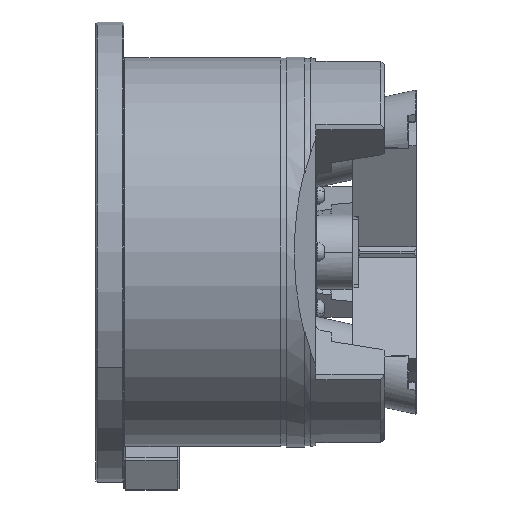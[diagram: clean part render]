
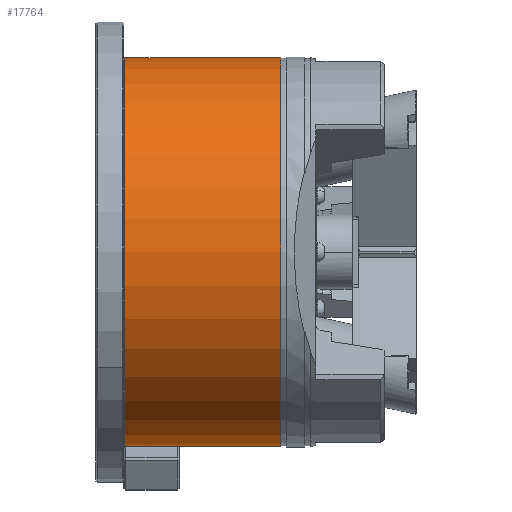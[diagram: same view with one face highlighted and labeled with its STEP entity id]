
A CAD part, front view. The second image highlights one B-rep face of the part: STEP entity #17764.
In plain terms, the highlighted cylindrical face has radius 104.75 mm (diameter 209.5 mm), a partial arc.
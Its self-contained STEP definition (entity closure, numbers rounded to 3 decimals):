
#104 = CARTESIAN_POINT ( 'NONE',  ( -102.4, 0., -104.75 ) ) ;
#1321 = DIRECTION ( 'NONE',  ( 1., 0., 0. ) ) ;
#4648 = VERTEX_POINT ( 'NONE', #18768 ) ;
#6115 = VERTEX_POINT ( 'NONE', #12835 ) ;
#6517 = AXIS2_PLACEMENT_3D ( 'NONE', #45815, #22331, #49743 ) ;
#6686 = DIRECTION ( 'NONE',  ( 1., 0., 0. ) ) ;
#8223 = AXIS2_PLACEMENT_3D ( 'NONE', #39813, #28300, #12507 ) ;
#9586 = CIRCLE ( 'NONE', #17956, 104.75 ) ;
#11032 = CARTESIAN_POINT ( 'NONE',  ( -18.5, 0., 104.75 ) ) ;
#11283 = VERTEX_POINT ( 'NONE', #11032 ) ;
#12129 = EDGE_CURVE ( 'NONE', #11283, #6115, #9586, .T. ) ;
#12260 = ORIENTED_EDGE ( 'NONE', *, *, #12129, .F. ) ;
#12297 = VERTEX_POINT ( 'NONE', #104 ) ;
#12507 = DIRECTION ( 'NONE',  ( 0., 0., -1. ) ) ;
#12835 = CARTESIAN_POINT ( 'NONE',  ( -18.5, 0., -104.75 ) ) ;
#13243 = ORIENTED_EDGE ( 'NONE', *, *, #42760, .F. ) ;
#15524 = LINE ( 'NONE', #40061, #36424 ) ;
#17764 = ADVANCED_FACE ( 'NONE', ( #31395 ), #39365, .T. ) ;
#17956 = AXIS2_PLACEMENT_3D ( 'NONE', #30188, #6686, #34157 ) ;
#18768 = CARTESIAN_POINT ( 'NONE',  ( -102.4, 0., 104.75 ) ) ;
#21283 = EDGE_LOOP ( 'NONE', ( #13243, #38191, #27010, #12260 ) ) ;
#22331 = DIRECTION ( 'NONE',  ( 1., 0., 0. ) ) ;
#24846 = CARTESIAN_POINT ( 'NONE',  ( 63.843, 0., -104.75 ) ) ;
#27010 = ORIENTED_EDGE ( 'NONE', *, *, #30039, .T. ) ;
#28300 = DIRECTION ( 'NONE',  ( 1., 0., 0. ) ) ;
#28694 = VECTOR ( 'NONE', #1321, 1000. ) ;
#30039 = EDGE_CURVE ( 'NONE', #12297, #6115, #49569, .T. ) ;
#30188 = CARTESIAN_POINT ( 'NONE',  ( -18.5, 0., 0. ) ) ;
#31395 = FACE_OUTER_BOUND ( 'NONE', #21283, .T. ) ;
#33975 = EDGE_CURVE ( 'NONE', #4648, #12297, #49967, .T. ) ;
#34157 = DIRECTION ( 'NONE',  ( 0., 0., -1. ) ) ;
#36424 = VECTOR ( 'NONE', #43994, 1000. ) ;
#38191 = ORIENTED_EDGE ( 'NONE', *, *, #33975, .T. ) ;
#39365 = CYLINDRICAL_SURFACE ( 'NONE', #8223, 104.75 ) ;
#39813 = CARTESIAN_POINT ( 'NONE',  ( 63.843, 0., 0. ) ) ;
#40061 = CARTESIAN_POINT ( 'NONE',  ( 63.843, 0., 104.75 ) ) ;
#42760 = EDGE_CURVE ( 'NONE', #4648, #11283, #15524, .T. ) ;
#43994 = DIRECTION ( 'NONE',  ( 1., 0., 0. ) ) ;
#45815 = CARTESIAN_POINT ( 'NONE',  ( -102.4, 0., 0. ) ) ;
#49569 = LINE ( 'NONE', #24846, #28694 ) ;
#49743 = DIRECTION ( 'NONE',  ( 0., 0., -1. ) ) ;
#49967 = CIRCLE ( 'NONE', #6517, 104.75 ) ;
